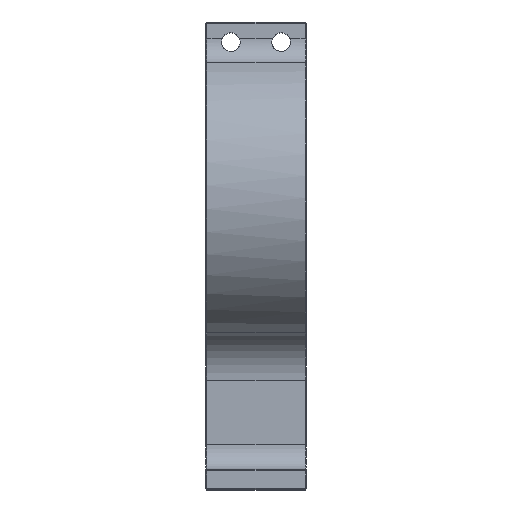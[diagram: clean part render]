
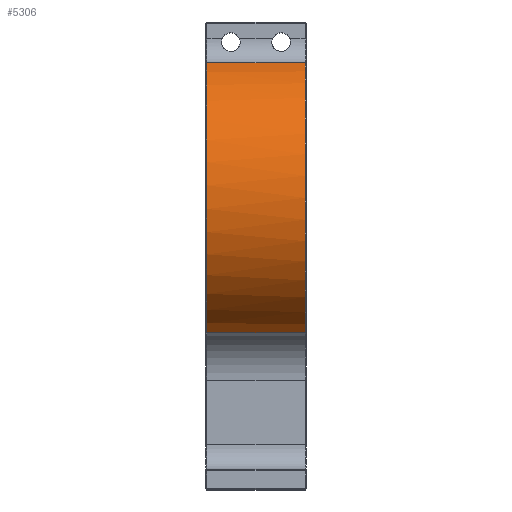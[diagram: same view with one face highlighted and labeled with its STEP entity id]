
A CAD part, top view. The second image highlights one B-rep face of the part: STEP entity #5306.
In plain terms, the highlighted cylindrical face has radius 28.5 mm (diameter 57 mm), a partial arc.
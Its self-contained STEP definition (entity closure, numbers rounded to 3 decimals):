
#338 = CARTESIAN_POINT ( 'NONE',  ( -25.75, 0., 0. ) ) ;
#415 = EDGE_CURVE ( 'NONE', #5285, #1537, #4202, .T. ) ;
#527 = CYLINDRICAL_SURFACE ( 'NONE', #1173, 28.5 ) ;
#586 = FACE_OUTER_BOUND ( 'NONE', #1088, .T. ) ;
#778 = VECTOR ( 'NONE', #2678, 1000. ) ;
#853 = EDGE_CURVE ( 'NONE', #1716, #5859, #1431, .T. ) ;
#989 = CARTESIAN_POINT ( 'NONE',  ( -26., 0., 0. ) ) ;
#1088 = EDGE_LOOP ( 'NONE', ( #5001, #4545, #2706, #2474, #3930 ) ) ;
#1173 = AXIS2_PLACEMENT_3D ( 'NONE', #989, #1454, #2426 ) ;
#1431 = LINE ( 'NONE', #3840, #4026 ) ;
#1454 = DIRECTION ( 'NONE',  ( 1., 0., 0. ) ) ;
#1527 = CARTESIAN_POINT ( 'NONE',  ( -6.25, 0., 0. ) ) ;
#1530 = CARTESIAN_POINT ( 'NONE',  ( -6.25, 26.92, 9.358 ) ) ;
#1537 = VERTEX_POINT ( 'NONE', #1530 ) ;
#1716 = VERTEX_POINT ( 'NONE', #5649 ) ;
#1896 = EDGE_CURVE ( 'NONE', #5859, #5285, #2467, .T. ) ;
#1898 = DIRECTION ( 'NONE',  ( 0., 0., -1. ) ) ;
#1974 = AXIS2_PLACEMENT_3D ( 'NONE', #1527, #2781, #1898 ) ;
#2426 = DIRECTION ( 'NONE',  ( 0., 0., -1. ) ) ;
#2467 = CIRCLE ( 'NONE', #1974, 28.5 ) ;
#2474 = ORIENTED_EDGE ( 'NONE', *, *, #1896, .T. ) ;
#2678 = DIRECTION ( 'NONE',  ( -1., 0., 0. ) ) ;
#2706 = ORIENTED_EDGE ( 'NONE', *, *, #853, .T. ) ;
#2781 = DIRECTION ( 'NONE',  ( -1., 0., 0. ) ) ;
#2882 = DIRECTION ( 'NONE',  ( 0., 0., -1. ) ) ;
#3268 = VERTEX_POINT ( 'NONE', #4218 ) ;
#3301 = DIRECTION ( 'NONE',  ( 1., 0., 0. ) ) ;
#3345 = DIRECTION ( 'NONE',  ( -1., 0., 0. ) ) ;
#3532 = CIRCLE ( 'NONE', #3810, 28.5 ) ;
#3791 = CARTESIAN_POINT ( 'NONE',  ( -6.25, 0., 0. ) ) ;
#3810 = AXIS2_PLACEMENT_3D ( 'NONE', #338, #6049, #4551 ) ;
#3840 = CARTESIAN_POINT ( 'NONE',  ( -26., -26.826, 9.623 ) ) ;
#3930 = ORIENTED_EDGE ( 'NONE', *, *, #415, .T. ) ;
#3995 = AXIS2_PLACEMENT_3D ( 'NONE', #3791, #3345, #2882 ) ;
#4026 = VECTOR ( 'NONE', #3301, 1000. ) ;
#4123 = LINE ( 'NONE', #6080, #778 ) ;
#4202 = CIRCLE ( 'NONE', #3995, 28.5 ) ;
#4218 = CARTESIAN_POINT ( 'NONE',  ( -25.75, 26.92, 9.358 ) ) ;
#4545 = ORIENTED_EDGE ( 'NONE', *, *, #4601, .T. ) ;
#4551 = DIRECTION ( 'NONE',  ( 0., 0., -1. ) ) ;
#4576 = EDGE_CURVE ( 'NONE', #1537, #3268, #4123, .T. ) ;
#4601 = EDGE_CURVE ( 'NONE', #3268, #1716, #3532, .T. ) ;
#5001 = ORIENTED_EDGE ( 'NONE', *, *, #4576, .T. ) ;
#5285 = VERTEX_POINT ( 'NONE', #5708 ) ;
#5306 = ADVANCED_FACE ( 'NONE', ( #586 ), #527, .T. ) ;
#5556 = CARTESIAN_POINT ( 'NONE',  ( -6.25, -26.826, 9.623 ) ) ;
#5649 = CARTESIAN_POINT ( 'NONE',  ( -25.75, -26.826, 9.623 ) ) ;
#5708 = CARTESIAN_POINT ( 'NONE',  ( -6.25, 0., 28.5 ) ) ;
#5859 = VERTEX_POINT ( 'NONE', #5556 ) ;
#6049 = DIRECTION ( 'NONE',  ( 1., 0., 0. ) ) ;
#6080 = CARTESIAN_POINT ( 'NONE',  ( -26., 26.92, 9.358 ) ) ;
